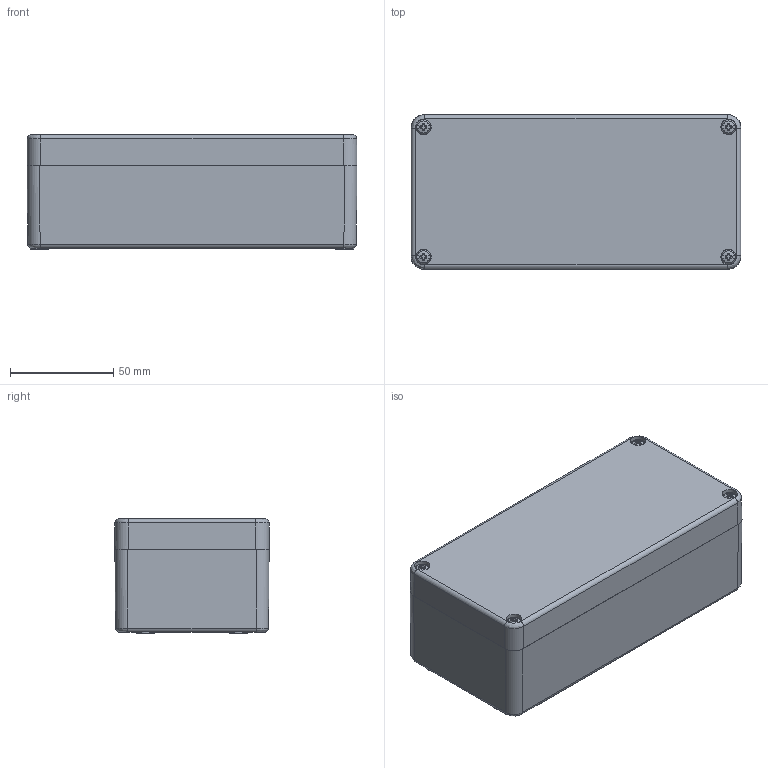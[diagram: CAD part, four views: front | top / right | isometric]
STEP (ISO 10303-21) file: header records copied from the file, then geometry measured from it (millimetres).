
FILE_DESCRIPTION(/* description */ (''),/* implementation_level */ '2;1');
FILE_NAME(/* name */ 'E:\Eng\Customer Service\Drawings\working on 1590ZGRP\STEP\1590ZGRP083\1590ZGRP083.iam.stp',/* time_stamp */ '2016-02-02T08:20:56-05:00',/* author */ ('kbond'),/* organization */ (''),/* preprocessor_version */ 'ST-DEVELOPER v16.1',/* originating_system */ 'Autodesk Inventor 2016',/* authorisation */ '');
FILE_SCHEMA (('AUTOMOTIVE_DESIGN { 1 0 10303 214 3 1 1 }'));
Length unit declared in the file: millimetre
Products named in the file (6): 1590ZGRP083 box; 1590ZGRP083 lid; 1590ZGRP083 Gasket; 1590ZGRP083PL; (screw M4-0.7X 25mm PN); 1590ZGRP083
Assembly tree (8 placements, depth 2):
  1590ZGRP083
    1590ZGRP083 box
    1590ZGRP083 lid
    1590ZGRP083 Gasket
    1590ZGRP083PL
    (screw M4-0.7X 25mm PN)  x4
Bounding box: 160 x 75 x 55.5 mm (x, y, z)
Volume: 214346.7 mm3; surface area: 124448.3 mm2
Topology: 8 solids, 8 shells, 428 faces, 1080 edges, 692 vertices
Faces by surface type: plane 220, cylinder 80, cone 76, torus 36, bspline 8, sphere 8
Full cylindrical faces by diameter (mm): 3.2 x8, 3.242 x6, 3.48 x4, 3.85 x4, 4.1 x4, 4.5 x4, 4.8 x4, 5 x2, 6.9 x4, 7.5 x4, 9 x4
Entity records: 9022 total; most frequent: CARTESIAN_POINT 1845, DIRECTION 1572, ORIENTED_EDGE 1334, EDGE_CURVE 667, AXIS2_PLACEMENT_3D 626, VERTEX_POINT 451, EDGE_LOOP 406, LINE 320
